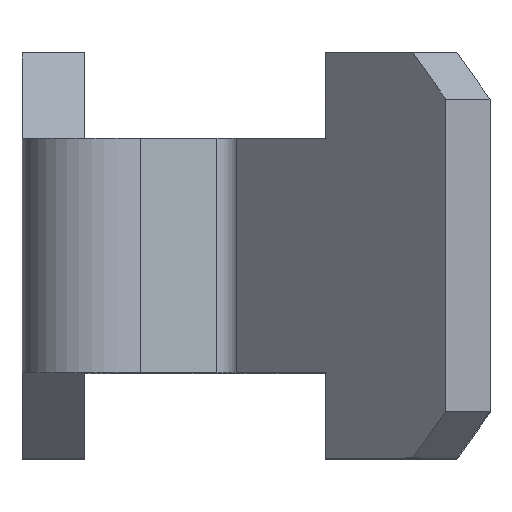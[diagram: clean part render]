
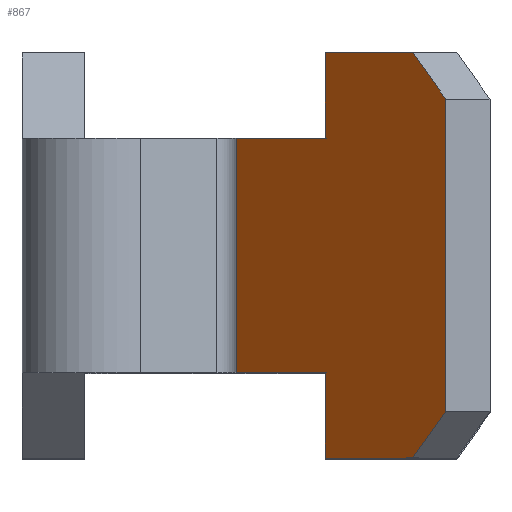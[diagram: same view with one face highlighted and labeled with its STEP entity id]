
A CAD part, top view. The second image highlights one B-rep face of the part: STEP entity #867.
In plain terms, the highlighted planar face has unit normal (-0.707, 0, 0.707).
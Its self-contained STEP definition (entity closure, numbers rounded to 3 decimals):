
#80=FACE_OUTER_BOUND('',#124,.T.);
#124=EDGE_LOOP('',(#745,#746,#747,#748,#749,#750,#751,#752,#753,#754));
#180=LINE('',#1306,#285);
#190=LINE('',#1332,#295);
#194=LINE('',#1340,#299);
#197=LINE('',#1346,#302);
#200=LINE('',#1353,#305);
#204=LINE('',#1360,#309);
#211=LINE('',#1375,#316);
#225=LINE('',#1404,#330);
#231=LINE('',#1424,#336);
#233=LINE('',#1427,#338);
#285=VECTOR('',#1050,1000.);
#295=VECTOR('',#1072,1000.);
#299=VECTOR('',#1078,1000.);
#302=VECTOR('',#1083,1000.);
#305=VECTOR('',#1088,1000.);
#309=VECTOR('',#1094,1000.);
#316=VECTOR('',#1107,1000.);
#330=VECTOR('',#1139,1000.);
#336=VECTOR('',#1165,1000.);
#338=VECTOR('',#1169,1000.);
#389=VERTEX_POINT('',#1303);
#390=VERTEX_POINT('',#1305);
#399=VERTEX_POINT('',#1330);
#400=VERTEX_POINT('',#1331);
#403=VERTEX_POINT('',#1339);
#405=VERTEX_POINT('',#1345);
#407=VERTEX_POINT('',#1351);
#408=VERTEX_POINT('',#1352);
#415=VERTEX_POINT('',#1373);
#421=VERTEX_POINT('',#1403);
#483=EDGE_CURVE('',#389,#390,#180,.T.);
#495=EDGE_CURVE('',#399,#400,#190,.T.);
#499=EDGE_CURVE('',#390,#403,#194,.T.);
#502=EDGE_CURVE('',#405,#389,#197,.T.);
#505=EDGE_CURVE('',#407,#408,#200,.T.);
#509=EDGE_CURVE('',#403,#407,#204,.T.);
#518=EDGE_CURVE('',#405,#415,#211,.T.);
#534=EDGE_CURVE('',#421,#400,#225,.T.);
#543=EDGE_CURVE('',#399,#408,#231,.T.);
#545=EDGE_CURVE('',#415,#421,#233,.T.);
#745=ORIENTED_EDGE('',*,*,#502,.F.);
#746=ORIENTED_EDGE('',*,*,#518,.T.);
#747=ORIENTED_EDGE('',*,*,#545,.T.);
#748=ORIENTED_EDGE('',*,*,#534,.T.);
#749=ORIENTED_EDGE('',*,*,#495,.F.);
#750=ORIENTED_EDGE('',*,*,#543,.T.);
#751=ORIENTED_EDGE('',*,*,#505,.F.);
#752=ORIENTED_EDGE('',*,*,#509,.F.);
#753=ORIENTED_EDGE('',*,*,#499,.F.);
#754=ORIENTED_EDGE('',*,*,#483,.F.);
#827=PLANE('',#949);
#867=ADVANCED_FACE('',(#80),#827,.F.);
#949=AXIS2_PLACEMENT_3D('',#1426,#1167,#1168);
#1050=DIRECTION('',(0.707,0.,0.707));
#1072=DIRECTION('',(0.,1.,0.));
#1078=DIRECTION('',(0.5,-0.707,0.5));
#1083=DIRECTION('',(0.,1.,0.));
#1088=DIRECTION('',(-0.5,-0.707,-0.5));
#1094=DIRECTION('',(0.,-1.,0.));
#1107=DIRECTION('',(-0.707,0.,-0.707));
#1139=DIRECTION('',(0.707,0.,0.707));
#1165=DIRECTION('',(0.707,0.,0.707));
#1167=DIRECTION('center_axis',(0.707,0.,-0.707));
#1168=DIRECTION('ref_axis',(-0.707,0.,-0.707));
#1169=DIRECTION('',(0.,-1.,0.));
#1303=CARTESIAN_POINT('',(9.723,6.5,12.137));
#1305=CARTESIAN_POINT('',(12.525,6.5,14.939));
#1306=CARTESIAN_POINT('',(6.863,6.5,9.277));
#1330=CARTESIAN_POINT('',(9.723,-6.5,12.137));
#1331=CARTESIAN_POINT('',(9.723,-3.75,12.137));
#1332=CARTESIAN_POINT('',(9.723,6.5,12.137));
#1339=CARTESIAN_POINT('',(13.586,5.,16.));
#1340=CARTESIAN_POINT('',(9.694,10.504,12.108));
#1345=CARTESIAN_POINT('',(9.723,3.75,12.137));
#1346=CARTESIAN_POINT('',(9.723,6.5,12.137));
#1351=CARTESIAN_POINT('',(13.586,-5.,16.));
#1352=CARTESIAN_POINT('',(12.525,-6.5,14.939));
#1353=CARTESIAN_POINT('',(14.29,-4.004,16.704));
#1360=CARTESIAN_POINT('',(13.586,6.5,16.));
#1373=CARTESIAN_POINT('',(6.863,3.75,9.277));
#1375=CARTESIAN_POINT('',(6.863,3.75,9.277));
#1403=CARTESIAN_POINT('',(6.863,-3.75,9.277));
#1404=CARTESIAN_POINT('',(6.863,-3.75,9.277));
#1424=CARTESIAN_POINT('',(6.863,-6.5,9.277));
#1426=CARTESIAN_POINT('Origin',(6.863,6.5,9.277));
#1427=CARTESIAN_POINT('',(6.863,6.5,9.277));
